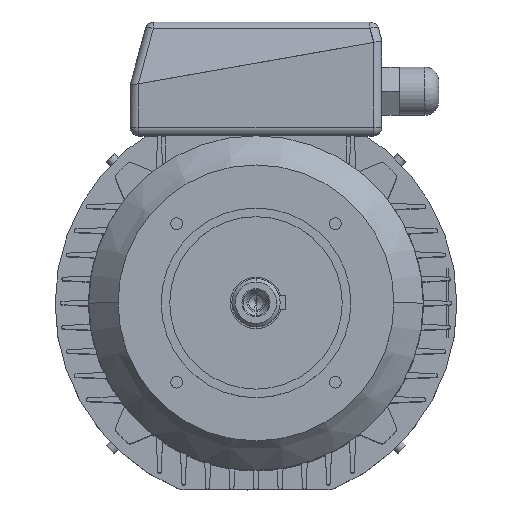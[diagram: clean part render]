
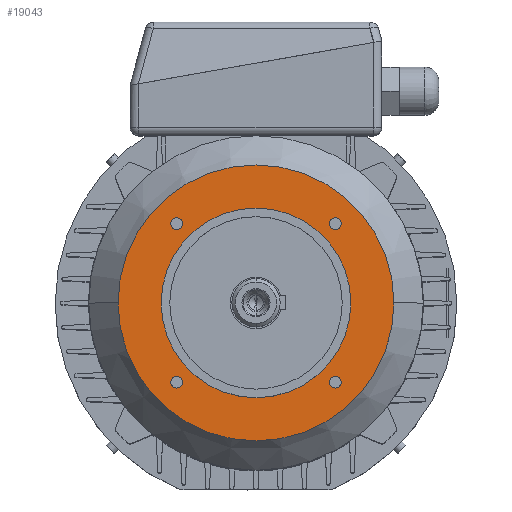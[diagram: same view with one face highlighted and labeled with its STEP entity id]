
A CAD part, top view. The second image highlights one B-rep face of the part: STEP entity #19043.
In plain terms, the highlighted planar face has unit normal (0, 0, 1).
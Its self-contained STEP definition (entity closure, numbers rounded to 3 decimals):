
#16613 = CIRCLE ( 'NONE', #16614, 3.4 ) ;
#16614 = AXIS2_PLACEMENT_3D ( 'NONE', #16615, #16616, #16617 ) ;
#16615 = CARTESIAN_POINT ( 'NONE',  ( -45.962, -45.962, 51. ) ) ;
#16616 = DIRECTION ( 'NONE',  ( 0., 0., 1. ) ) ;
#16617 = DIRECTION ( 'NONE',  ( 1., 0., 0. ) ) ;
#554 = EDGE_CURVE ( 'NONE', #18961, #7682, #16363, .T. ) ;
#680 = ORIENTED_EDGE ( 'NONE', *, *, #19515, .F. ) ;
#907 = EDGE_CURVE ( 'NONE', #3892, #3476, #16613, .T. ) ;
#17427 = CARTESIAN_POINT ( 'NONE',  ( 55., 0., 51. ) ) ;
#1267 = CIRCLE ( 'NONE', #1268, 3.4 ) ;
#1268 = AXIS2_PLACEMENT_3D ( 'NONE', #1273, #1274, #1275 ) ;
#1273 = CARTESIAN_POINT ( 'NONE',  ( 45.962, -45.962, 51. ) ) ;
#1274 = DIRECTION ( 'NONE',  ( 0., 0., 1. ) ) ;
#1275 = DIRECTION ( 'NONE',  ( 1., 0., 0. ) ) ;
#17694 = CARTESIAN_POINT ( 'NONE',  ( -55., 0., 51. ) ) ;
#1387 = CARTESIAN_POINT ( 'NONE',  ( 42.562, 45.962, 51. ) ) ;
#17914 = ORIENTED_EDGE ( 'NONE', *, *, #15864, .F. ) ;
#18143 = ORIENTED_EDGE ( 'NONE', *, *, #554, .F. ) ;
#1814 = ORIENTED_EDGE ( 'NONE', *, *, #20137, .T. ) ;
#1887 = VERTEX_POINT ( 'NONE', #17427 ) ;
#2243 = VERTEX_POINT ( 'NONE', #17694 ) ;
#2254 = CARTESIAN_POINT ( 'NONE',  ( 80., 0., 51. ) ) ;
#18660 = CARTESIAN_POINT ( 'NONE',  ( -42.562, -45.962, 51. ) ) ;
#18755 = EDGE_LOOP ( 'NONE', ( #18143, #17914 ) ) ;
#18937 = CIRCLE ( 'NONE', #18938, 3.4 ) ;
#18938 = AXIS2_PLACEMENT_3D ( 'NONE', #18939, #18944, #18945 ) ;
#18939 = CARTESIAN_POINT ( 'NONE',  ( 45.962, -45.962, 51. ) ) ;
#18944 = DIRECTION ( 'NONE',  ( 0., 0., 1. ) ) ;
#18945 = DIRECTION ( 'NONE',  ( 1., 0., 0. ) ) ;
#18946 = CIRCLE ( 'NONE', #18947, 3.4 ) ;
#18947 = AXIS2_PLACEMENT_3D ( 'NONE', #18948, #18949, #18950 ) ;
#18948 = CARTESIAN_POINT ( 'NONE',  ( -45.962, -45.962, 51. ) ) ;
#18949 = DIRECTION ( 'NONE',  ( 0., 0., 1. ) ) ;
#18950 = DIRECTION ( 'NONE',  ( 1., 0., 0. ) ) ;
#18955 = CARTESIAN_POINT ( 'NONE',  ( -49.362, -45.962, 51. ) ) ;
#18956 = CARTESIAN_POINT ( 'NONE',  ( 42.562, -45.962, 51. ) ) ;
#18961 = VERTEX_POINT ( 'NONE', #13935 ) ;
#19043 = ADVANCED_FACE ( 'NONE', ( #14022, #14023, #14024, #14025, #14026, #14027 ), #14028, .F. ) ;
#19307 = EDGE_LOOP ( 'NONE', ( #4535, #680 ) ) ;
#19515 = EDGE_CURVE ( 'NONE', #2243, #1887, #14309, .T. ) ;
#19516 = EDGE_CURVE ( 'NONE', #12582, #8693, #14328, .T. ) ;
#3351 = ORIENTED_EDGE ( 'NONE', *, *, #907, .F. ) ;
#3476 = VERTEX_POINT ( 'NONE', #18660 ) ;
#20137 = EDGE_CURVE ( 'NONE', #8693, #12582, #14825, .T. ) ;
#3821 = CIRCLE ( 'NONE', #3822, 55. ) ;
#3822 = AXIS2_PLACEMENT_3D ( 'NONE', #3823, #3824, #3825 ) ;
#3823 = CARTESIAN_POINT ( 'NONE',  ( 0., 0., 51. ) ) ;
#3824 = DIRECTION ( 'NONE',  ( 0., 0., 1. ) ) ;
#3825 = DIRECTION ( 'NONE',  ( 1., 0., 0. ) ) ;
#3870 = EDGE_CURVE ( 'NONE', #3893, #11951, #18937, .T. ) ;
#3871 = EDGE_CURVE ( 'NONE', #3476, #3892, #18946, .T. ) ;
#3892 = VERTEX_POINT ( 'NONE', #18955 ) ;
#3893 = VERTEX_POINT ( 'NONE', #18956 ) ;
#4223 = CIRCLE ( 'NONE', #4224, 3.4 ) ;
#4224 = AXIS2_PLACEMENT_3D ( 'NONE', #4225, #4226, #4227 ) ;
#4225 = CARTESIAN_POINT ( 'NONE',  ( -45.962, 45.962, 51. ) ) ;
#4226 = DIRECTION ( 'NONE',  ( 0., 0., 1. ) ) ;
#4227 = DIRECTION ( 'NONE',  ( 1., 0., 0. ) ) ;
#4535 = ORIENTED_EDGE ( 'NONE', *, *, #10672, .F. ) ;
#4758 = ORIENTED_EDGE ( 'NONE', *, *, #3870, .F. ) ;
#5000 = CARTESIAN_POINT ( 'NONE',  ( 49.362, -45.962, 51. ) ) ;
#6273 = CARTESIAN_POINT ( 'NONE',  ( -80., 0., 51. ) ) ;
#6822 = CARTESIAN_POINT ( 'NONE',  ( -49.362, 45.962, 51. ) ) ;
#7484 = EDGE_CURVE ( 'NONE', #11951, #3893, #1267, .T. ) ;
#7682 = VERTEX_POINT ( 'NONE', #1387 ) ;
#7833 = ORIENTED_EDGE ( 'NONE', *, *, #7484, .F. ) ;
#8693 = VERTEX_POINT ( 'NONE', #2254 ) ;
#9302 = ORIENTED_EDGE ( 'NONE', *, *, #3871, .F. ) ;
#9726 = EDGE_LOOP ( 'NONE', ( #9302, #3351 ) ) ;
#10254 = CARTESIAN_POINT ( 'NONE',  ( -42.562, 45.962, 51. ) ) ;
#10368 = CIRCLE ( 'NONE', #10369, 3.4 ) ;
#10369 = AXIS2_PLACEMENT_3D ( 'NONE', #10370, #10371, #10372 ) ;
#10370 = CARTESIAN_POINT ( 'NONE',  ( -45.962, 45.962, 51. ) ) ;
#10371 = DIRECTION ( 'NONE',  ( 0., 0., 1. ) ) ;
#10372 = DIRECTION ( 'NONE',  ( 1., 0., 0. ) ) ;
#10672 = EDGE_CURVE ( 'NONE', #1887, #2243, #3821, .T. ) ;
#10865 = CIRCLE ( 'NONE', #10866, 3.4 ) ;
#10866 = AXIS2_PLACEMENT_3D ( 'NONE', #10873, #10874, #10875 ) ;
#10873 = CARTESIAN_POINT ( 'NONE',  ( 45.962, 45.962, 51. ) ) ;
#10874 = DIRECTION ( 'NONE',  ( 0., 0., 1. ) ) ;
#10875 = DIRECTION ( 'NONE',  ( 1., 0., 0. ) ) ;
#11230 = EDGE_CURVE ( 'NONE', #15662, #13153, #4223, .T. ) ;
#11683 = ORIENTED_EDGE ( 'NONE', *, *, #11230, .F. ) ;
#11951 = VERTEX_POINT ( 'NONE', #5000 ) ;
#12269 = EDGE_LOOP ( 'NONE', ( #11683, #15777 ) ) ;
#12582 = VERTEX_POINT ( 'NONE', #6273 ) ;
#13153 = VERTEX_POINT ( 'NONE', #6822 ) ;
#13221 = EDGE_LOOP ( 'NONE', ( #7833, #4758 ) ) ;
#13935 = CARTESIAN_POINT ( 'NONE',  ( 49.362, 45.962, 51. ) ) ;
#14022 = FACE_BOUND ( 'NONE', #18755, .T. ) ;
#14023 = FACE_OUTER_BOUND ( 'NONE', #15610, .T. ) ;
#14024 = FACE_BOUND ( 'NONE', #19307, .T. ) ;
#14025 = FACE_BOUND ( 'NONE', #9726, .T. ) ;
#14026 = FACE_BOUND ( 'NONE', #13221, .T. ) ;
#14027 = FACE_BOUND ( 'NONE', #12269, .T. ) ;
#14028 = PLANE ( 'NONE',  #14029 ) ;
#14029 = AXIS2_PLACEMENT_3D ( 'NONE', #14030, #14036, #14037 ) ;
#14030 = CARTESIAN_POINT ( 'NONE',  ( 0., 80., 51. ) ) ;
#14036 = DIRECTION ( 'NONE',  ( 0., 0., -1. ) ) ;
#14037 = DIRECTION ( 'NONE',  ( -1., 0., 0. ) ) ;
#14309 = CIRCLE ( 'NONE', #14310, 55. ) ;
#14310 = AXIS2_PLACEMENT_3D ( 'NONE', #14311, #14326, #14327 ) ;
#14311 = CARTESIAN_POINT ( 'NONE',  ( 0., 0., 51. ) ) ;
#14326 = DIRECTION ( 'NONE',  ( 0., 0., 1. ) ) ;
#14327 = DIRECTION ( 'NONE',  ( 1., 0., 0. ) ) ;
#14328 = CIRCLE ( 'NONE', #14329, 80. ) ;
#14329 = AXIS2_PLACEMENT_3D ( 'NONE', #14330, #14331, #14332 ) ;
#14330 = CARTESIAN_POINT ( 'NONE',  ( 0., 0., 51. ) ) ;
#14331 = DIRECTION ( 'NONE',  ( 0., 0., 1. ) ) ;
#14332 = DIRECTION ( 'NONE',  ( 1., 0., 0. ) ) ;
#14825 = CIRCLE ( 'NONE', #14826, 80. ) ;
#14826 = AXIS2_PLACEMENT_3D ( 'NONE', #14827, #14828, #14829 ) ;
#14827 = CARTESIAN_POINT ( 'NONE',  ( 0., 0., 51. ) ) ;
#14828 = DIRECTION ( 'NONE',  ( 0., 0., 1. ) ) ;
#14829 = DIRECTION ( 'NONE',  ( 1., 0., 0. ) ) ;
#15610 = EDGE_LOOP ( 'NONE', ( #1814, #16298 ) ) ;
#15662 = VERTEX_POINT ( 'NONE', #10254 ) ;
#15725 = EDGE_CURVE ( 'NONE', #13153, #15662, #10368, .T. ) ;
#15777 = ORIENTED_EDGE ( 'NONE', *, *, #15725, .F. ) ;
#15864 = EDGE_CURVE ( 'NONE', #7682, #18961, #10865, .T. ) ;
#16298 = ORIENTED_EDGE ( 'NONE', *, *, #19516, .T. ) ;
#16363 = CIRCLE ( 'NONE', #16364, 3.4 ) ;
#16364 = AXIS2_PLACEMENT_3D ( 'NONE', #16365, #16366, #16367 ) ;
#16365 = CARTESIAN_POINT ( 'NONE',  ( 45.962, 45.962, 51. ) ) ;
#16366 = DIRECTION ( 'NONE',  ( 0., 0., 1. ) ) ;
#16367 = DIRECTION ( 'NONE',  ( 1., 0., 0. ) ) ;
